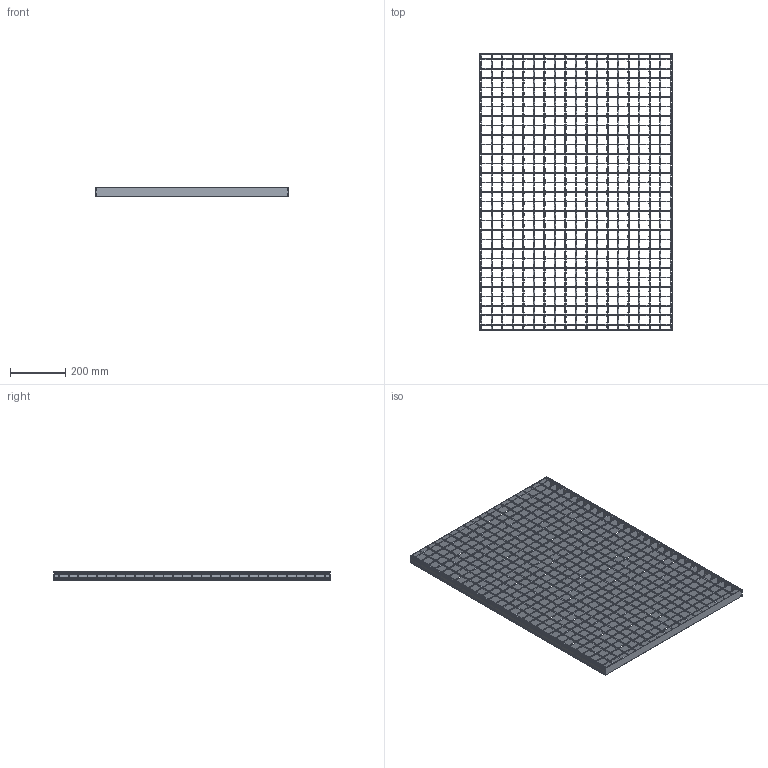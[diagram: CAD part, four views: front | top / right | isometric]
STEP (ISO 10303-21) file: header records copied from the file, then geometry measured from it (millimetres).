
FILE_DESCRIPTION(/* description */ ('STEP AP242','CAx-IF Rec.Pracs.---Representation and Presentation of Product Manufacturing Information (PMI)---4.0---2014-10-13','CAx-IF Rec.Pracs.---3D Tessellated Geometry---0.4---2014-09-14','2;1'),/* implementation_level */ '2;1');
FILE_NAME(/* name */ 'Lichtgitter_Forge_welded_gratings SP 230-34_38-2-1-1-700-1000_(350_1_0)',/* time_stamp */ '2026-04-23T13:29:08+02:00',/* author */ ('License CC BY-ND 4.0'),/* organization */ ('CADENAS'),/* preprocessor_version */ 'ST-DEVELOPER v20',/* originating_system */ 'PARTsolutions',/* authorisation */ ' ');
FILE_SCHEMA (('AP242_MANAGED_MODEL_BASED_3D_ENGINEERING_MIM_LF { 1 0 10303 442 1 1 4 }'));
Length unit declared in the file: millimetre
Products named in the file (5): Lichtgitter_Forge_welded_gratings SP 230-34/38-2-1-1-700-1000_(350_1_
0); Lichtgitter SP 230-34/38-2_(350_1_2_700_1000_Schweisspressroste)_VERT
ICAL_SIDES; Lichtgitter SP 230-34/38-2_(350_1_2_700_1000_Schweisspressroste)_HORI
ZONTAL_C; Lichtgitter SP 230-34/38-2_(350_1_2_700_1000_Schweisspressroste)_HORI
ZONTAL_SIDES; Lichtgitter SP 3.46530-34/38-3.465_(350_1_2_700_1000_Schweisspressros
te)_VERTICAL_C
Assembly tree (52 placements, depth 2):
  Lichtgitter_Forge_welded_gratings SP 230-34/38-2-1-1-700-1000_(350_1_
0)
    Lichtgitter SP 230-34/38-2_(350_1_2_700_1000_Schweisspressroste)_VERT
ICAL_SIDES  x2
    Lichtgitter SP 230-34/38-2_(350_1_2_700_1000_Schweisspressroste)_HORI
ZONTAL_C  x29
    Lichtgitter SP 230-34/38-2_(350_1_2_700_1000_Schweisspressroste)_HORI
ZONTAL_SIDES  x2
    Lichtgitter SP 3.46530-34/38-3.465_(350_1_2_700_1000_Schweisspressros
te)_VERTICAL_C  x19
Bounding box: 700 x 1000 x 30.72 mm (x, y, z)
Volume: 1618024.2 mm3; surface area: 1761236.1 mm2
Topology: 52 solids, 52 shells, 5162 faces, 11450 edges, 6392 vertices
Faces by surface type: bspline 3800, plane 795, cylinder 567
Entity records: 8327 total; most frequent: CARTESIAN_POINT 2653, ORIENTED_EDGE 1180, DIRECTION 886, EDGE_CURVE 590, LINE 532, VECTOR 532, VERTEX_POINT 328, EDGE_LOOP 270
